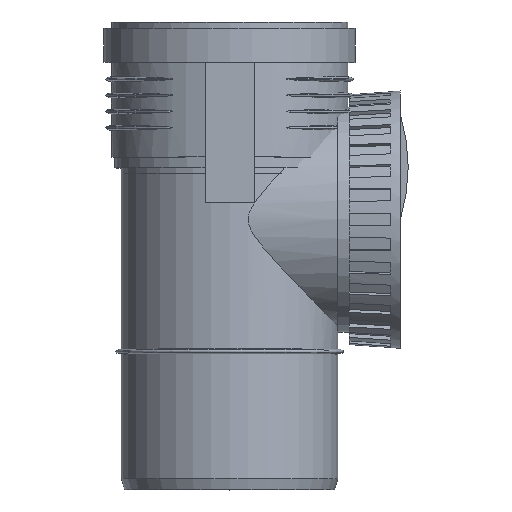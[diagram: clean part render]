
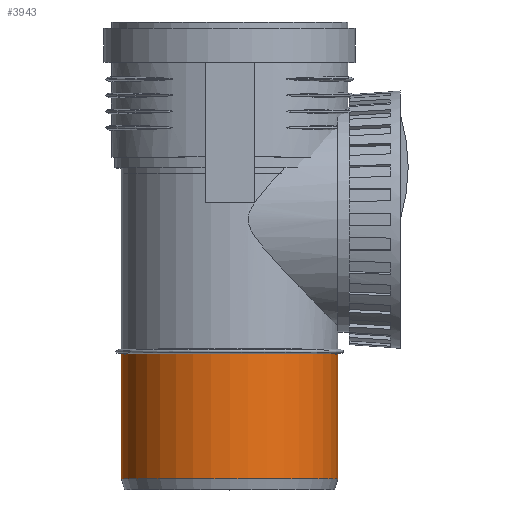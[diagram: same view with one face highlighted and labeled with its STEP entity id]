
A CAD part, top view. The second image highlights one B-rep face of the part: STEP entity #3943.
In plain terms, the highlighted cylindrical face has radius 55.1 mm (diameter 110.2 mm), a full revolution.
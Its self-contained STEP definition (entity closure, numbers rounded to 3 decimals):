
#145=FACE_BOUND($,#1174,.T.);
#957=FACE_OUTER_BOUND($,#1173,.T.);
#1173=EDGE_LOOP($,(#2594));
#1174=EDGE_LOOP($,(#2595));
#1481=CIRCLE($,#4177,55.1);
#1482=CIRCLE($,#4179,55.1);
#1620=VERTEX_POINT($,#5774);
#1621=VERTEX_POINT($,#5777);
#2014=EDGE_CURVE($,#1620,#1620,#1481,.T.);
#2015=EDGE_CURVE($,#1621,#1621,#1482,.T.);
#2594=ORIENTED_EDGE($,*,*,#2015,.F.);
#2595=ORIENTED_EDGE($,*,*,#2014,.T.);
#3696=CYLINDRICAL_SURFACE($,#4178,55.1);
#3943=ADVANCED_FACE($,(#957,#145),#3696,.T.);
#4177=AXIS2_PLACEMENT_3D($,#5775,#4561,#4562);
#4178=AXIS2_PLACEMENT_3D($,#5776,#4563,#4564);
#4179=AXIS2_PLACEMENT_3D($,#5778,#4565,#4566);
#4561=DIRECTION('center_axis',(0.,1.,0.));
#4562=DIRECTION('ref_axis',(-1.,0.,0.));
#4563=DIRECTION('center_axis',(0.,1.,0.));
#4564=DIRECTION('ref_axis',(-1.,0.,0.));
#4565=DIRECTION('center_axis',(0.,1.,0.));
#4566=DIRECTION('ref_axis',(-1.,0.,0.));
#5774=CARTESIAN_POINT('',(-55.1,5.5,0.));
#5775=CARTESIAN_POINT('Origin',(0.,5.5,0.));
#5776=CARTESIAN_POINT('Origin',(0.,37.3,0.));
#5777=CARTESIAN_POINT('',(-55.1,69.1,0.));
#5778=CARTESIAN_POINT('Origin',(0.,69.1,0.));
